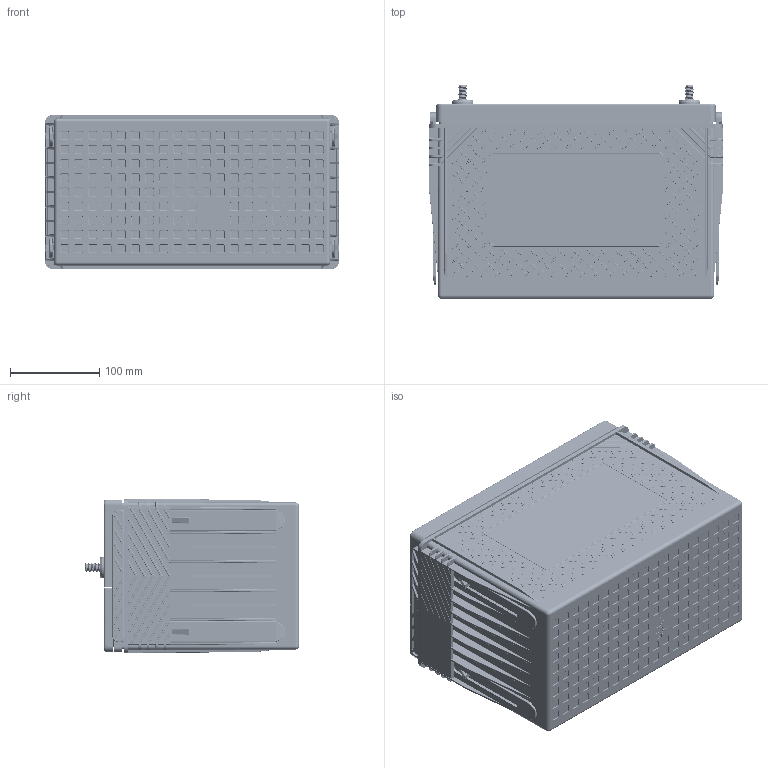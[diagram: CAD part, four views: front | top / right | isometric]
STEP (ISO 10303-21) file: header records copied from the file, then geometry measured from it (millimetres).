
FILE_DESCRIPTION (( 'STEP AP203' ), '1' );
FILE_NAME ('ODP-AGM31.STEP', '2024-02-26T19:37:26', ( '' ), ( '' ), 'SwSTEP 2.0', 'SolidWorks 2022', '' );
FILE_SCHEMA (( 'CONFIG_CONTROL_DESIGN' ));
Products named in the file (1): ODP-AGM31
Bounding box: 329.43 x 239.9 x 172.21 mm (x, y, z)
Volume: 1855126.3 mm3; surface area: 1207493.2 mm2
Topology: 10 solids, 10 shells, 27671 faces, 62610 edges, 35162 vertices
Faces by surface type: cylinder 10833, plane 5666, torus 4377, bspline 2840, cone 2253, sphere 1702
Full cylindrical faces by diameter (mm): 2.794 x12, 3.175 x1, 14.351 x2, 15.875 x5, 17.983 x7, 18.085 x1, 21.514 x4
Entity records: 810372 total; most frequent: CARTESIAN_POINT 211770, DIRECTION 131959, ORIENTED_EDGE 123864, EDGE_CURVE 61932, AXIS2_PLACEMENT_3D 52291, VERTEX_POINT 35105, EDGE_LOOP 28571, FACE_OUTER_BOUND 27759
